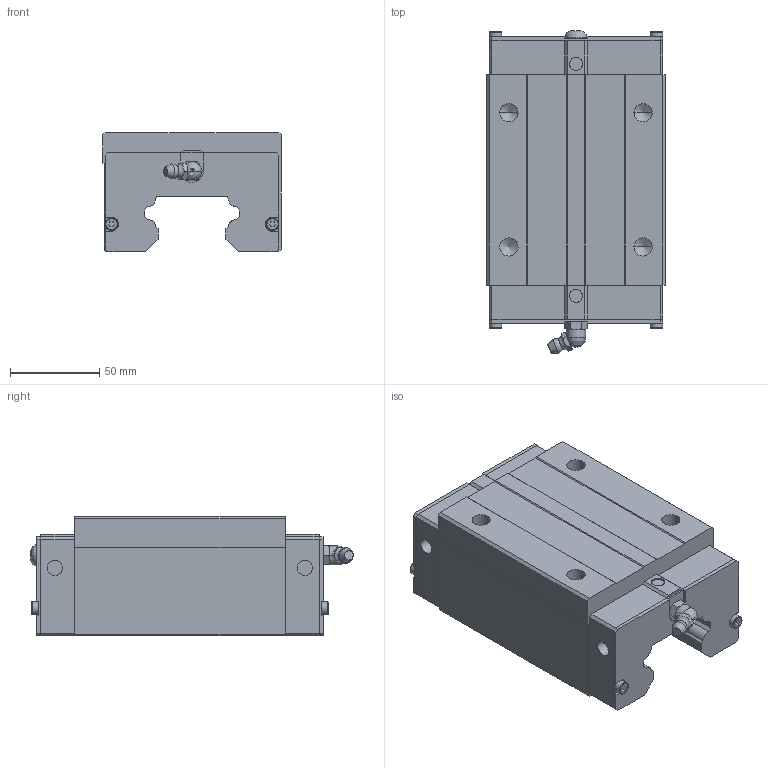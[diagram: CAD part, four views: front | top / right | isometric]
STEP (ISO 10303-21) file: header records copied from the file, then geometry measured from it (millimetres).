
FILE_DESCRIPTION(('STEP AP214'), '1');
FILE_NAME('Ìîäóëü îïîðíûé Hiwin HGH55CAZAC', '', ('UNSPECIFIED'), ('UNSPECIFIED'), 'ASCON STEP Converter 1.3', 'ASCON Math Kernel', '');
FILE_SCHEMA(('AUTOMOTIVE_DESIGN { 1 0 10303 214 3 1 1}'));
Length unit declared in the file: millimetre
Bounding box: 100 x 180.23 x 67 mm (x, y, z)
Volume: 778564.9 mm3; surface area: 78975.4 mm2
Topology: 6 solids, 6 shells, 248 faces, 652 edges, 420 vertices
Faces by surface type: plane 179, bspline 69
Entity records: 19989 total; most frequent: CARTESIAN_POINT 12652, ORIENTED_EDGE 1204, DIRECTION 806, EDGE_CURVE 602, LINE 446, VECTOR 446, VERTEX_POINT 417, EDGE_LOOP 307
